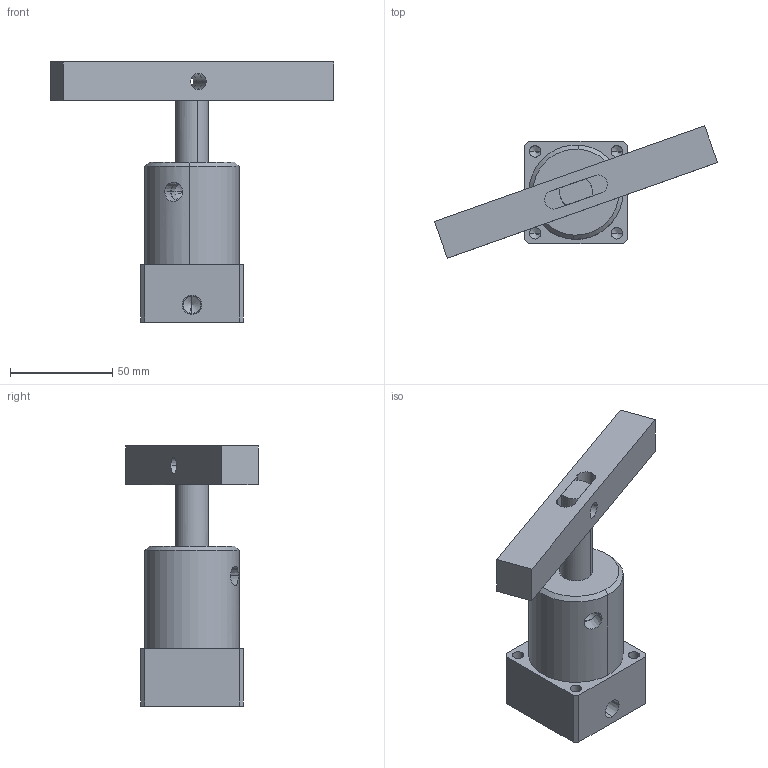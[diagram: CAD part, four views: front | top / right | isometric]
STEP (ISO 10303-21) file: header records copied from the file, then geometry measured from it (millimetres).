
FILE_DESCRIPTION (( 'STEP AP203' ), '1' );
FILE_NAME ('Bridage double clamp ø32.STEP', '2010-02-18T13:54:45', ( 'Christophe Gaillard' ), ( 'SGA' ), 'SwSTEP 2.0', 'SolidWorks 2007', '' );
FILE_SCHEMA (( 'CONFIG_CONTROL_DESIGN' ));
Length unit declared in the file: millimetre
Products named in the file (5): Base ø32_Défaut; Bridage double clamp ø32; Bride ø32_Défaut; Corps ø32_Défaut; Tige ø32_Défaut
Assembly tree (4 placements, depth 2):
  Bridage double clamp ø32
    Tige ø32_Défaut
    Corps ø32_Défaut
    Bride ø32_Défaut
    Base ø32_Défaut
Bounding box: 138.31 x 64.66 x 127 mm (x, y, z)
Volume: 201953.2 mm3; surface area: 45212.5 mm2
Topology: 4 solids, 4 shells, 74 faces, 178 edges, 108 vertices
Faces by surface type: cylinder 28, plane 28, cone 18
Entity records: 2685 total; most frequent: CARTESIAN_POINT 423, DIRECTION 394, ORIENTED_EDGE 332, EDGE_CURVE 166, AXIS2_PLACEMENT_3D 149, VERTEX_POINT 108, VECTOR 96, LINE 96
